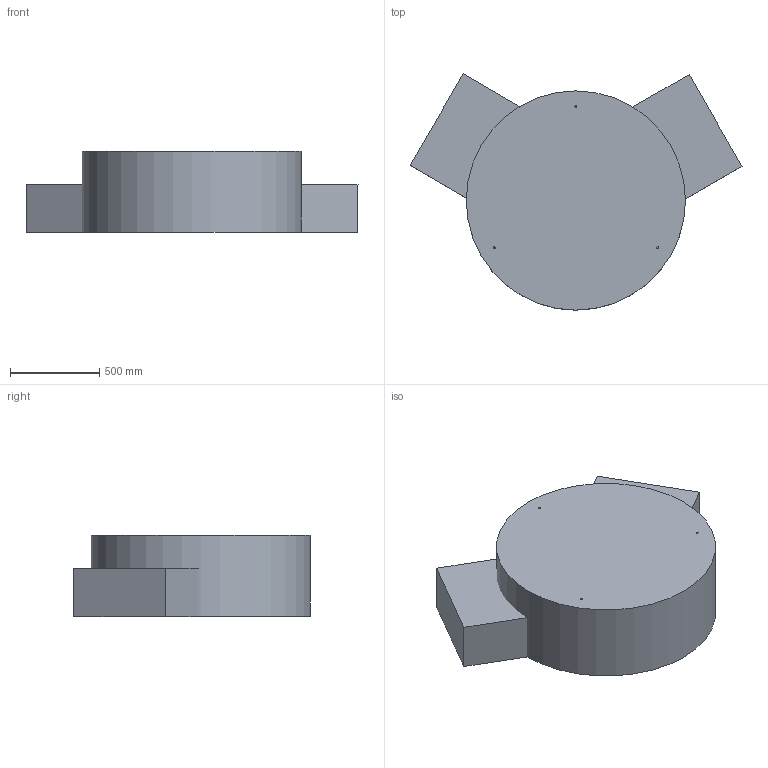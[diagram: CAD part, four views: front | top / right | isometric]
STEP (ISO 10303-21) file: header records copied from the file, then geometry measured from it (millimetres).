
FILE_DESCRIPTION(/* description */ ('DM1 Adaptive Mirror Subunit'),/* implementation_level */ '2;1');
FILE_NAME(/* name */ 'E-MAO-PDA-00.00.00.00-ADP-DWG-001_01 DM1 design volume.stp',/* time_stamp */ '2025-11-21T16:13:47+01:00',/* author */ ('UT'),/* organization */ (''),/* preprocessor_version */ 'ST-DEVELOPER v20',/* originating_system */ 'Autodesk Inventor 2025',/* authorisation */ '');
FILE_SCHEMA (('AUTOMOTIVE_DESIGN { 1 0 10303 214 3 1 1 }'));
Length unit declared in the file: millimetre
Products named in the file (3): E-MAO-PDA-01.00.00.00-ADP-DWG-002_01 DM1 Design Volume; E-MAO-PDA-ICD-DWG; volume Crate
Assembly tree (3 placements, depth 2):
  E-MAO-PDA-01.00.00.00-ADP-DWG-002_01 DM1 Design Volume
    E-MAO-PDA-ICD-DWG
    volume Crate  x2
Bounding box: 1857 x 1322.27 x 455.96 mm (x, y, z)
Volume: 661461639.4 mm3; surface area: 6118596.5 mm2
Topology: 4 solids, 4 shells, 28 faces, 48 edges, 32 vertices
Faces by surface type: plane 20, cylinder 7, sphere 1
Full cylindrical faces by diameter (mm): 10 x6, 1226 x1
Entity records: 636 total; most frequent: DIRECTION 105, CARTESIAN_POINT 86, ORIENTED_EDGE 68, AXIS2_PLACEMENT_3D 43, EDGE_CURVE 34, EDGE_LOOP 28, VERTEX_POINT 24, FACE_OUTER_BOUND 22
